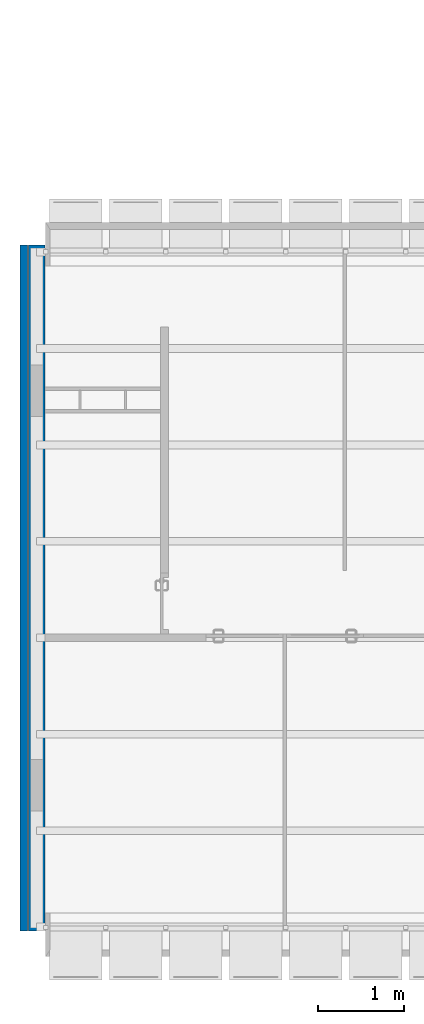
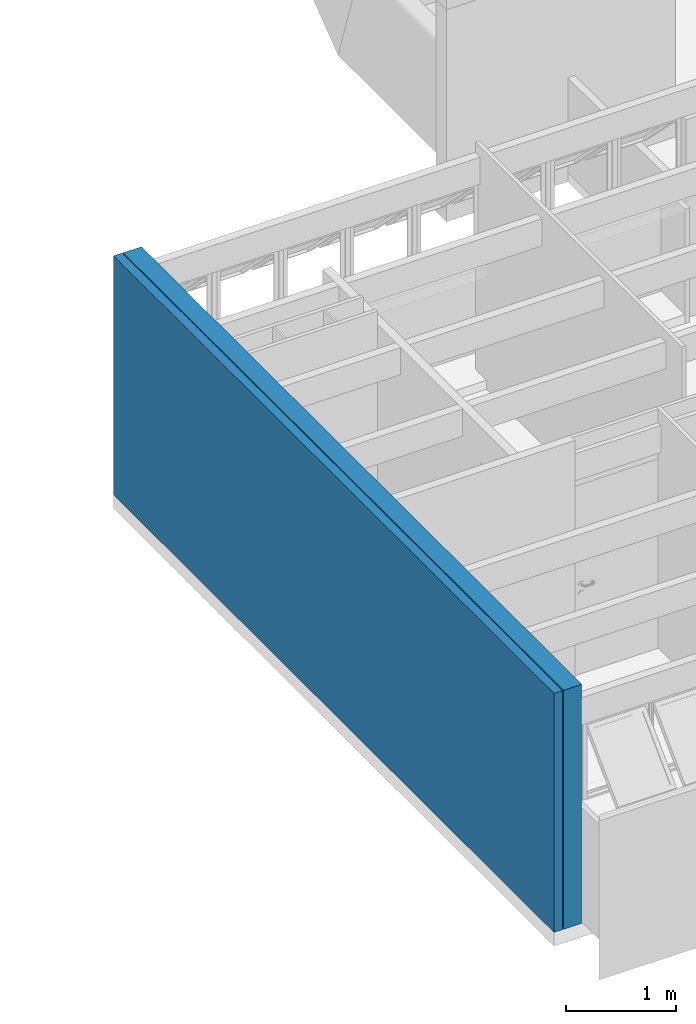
# One storey, part 20 of 41: 2 walls.
"""IFC4 building model written with IfcOpenShell, lengths in millimetres."""

from ifc_helpers import new_model, entity, si_unit, converted_unit, derived_unit, direction, frame, origin_with_axes, place, context, subcontext, project, spatial, line, indexed_curve, outline, extrude, material, layer, layer_set, layer_usage, type_object, element, save


model = new_model("IFC4")

# Units and contexts
model_context = context("Model", 3, precision=0.01, world=origin_with_axes(), true_north=direction((0.0, 1.0)))
body_context = subcontext(model_context, "Body", "Model", "MODEL_VIEW")
ifc_project = project(units=[si_unit("LENGTHUNIT", "METRE", prefix="MILLI"), si_unit("AREAUNIT", "SQUARE_METRE"), si_unit("VOLUMEUNIT", "CUBIC_METRE"), converted_unit("PLANEANGLEUNIT", "DEGREE", entity("IfcPlaneAngleMeasure", 0.0174532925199), si_unit("PLANEANGLEUNIT", "RADIAN"), dimensions=[0, 0, 0, 0, 0, 0, 0]), converted_unit("TIMEUNIT", "Year", entity("IfcTimeMeasure", 31556926.0), si_unit("TIMEUNIT", "SECOND"), dimensions=[0, 0, 1, 0, 0, 0, 0]), si_unit("MASSUNIT", "GRAM", prefix="KILO"), si_unit("THERMODYNAMICTEMPERATUREUNIT", "DEGREE_CELSIUS"), si_unit("LUMINOUSINTENSITYUNIT", "LUMEN"), si_unit("ENERGYUNIT", "JOULE", prefix="MEGA"), derived_unit("THERMALCONDUCTANCEUNIT", [(si_unit("POWERUNIT", "WATT"), 1), (si_unit("LENGTHUNIT", "METRE"), -1), (si_unit("THERMODYNAMICTEMPERATUREUNIT", "KELVIN"), -1)]), derived_unit("SPECIFICHEATCAPACITYUNIT", [(si_unit("ENERGYUNIT", "JOULE"), 1), (si_unit("MASSUNIT", "GRAM", prefix="KILO"), -1), (si_unit("THERMODYNAMICTEMPERATUREUNIT", "KELVIN"), -1)]), derived_unit("MASSDENSITYUNIT", [(si_unit("MASSUNIT", "GRAM", prefix="KILO"), 1), (si_unit("VOLUMEUNIT", "CUBIC_METRE"), -1)])], contexts=[model_context])

# Site, building, storey
site_placement = place(None, origin_with_axes())
site = spatial("IfcSite", under=ifc_project, at=site_placement, Name="Local", CompositionType="ELEMENT")
building_placement = place(site_placement, origin_with_axes())
building = spatial("IfcBuilding", under=site, at=building_placement, Name="Construção", CompositionType="ELEMENT")
storey_placement = place(building_placement, frame((0.0, 0.0, 2650.0), z_axis=(0.0, 0.0, 1.0), x_axis=(1.0, 0.0, 0.0)))
storey = spatial("IfcBuildingStorey", under=building, at=storey_placement, Name="Segundo Pavimento", CompositionType="ELEMENT", Elevation=2650.0)

# Walls
ifc_material = material(Name="GENÉRICO - VEDAÇÃO EXTERNA")
ifc_layer_1 = layer(ifc_material, 190.0, ventilated="UNKNOWN", Name="GENÉRICO - VEDAÇÃO EXTERNA")
ifc_layer_set_1 = layer_set([ifc_layer_1], Name="GENÉRICO - VEDAÇÃO EXTERNA 190")
ifc_layer_usage_1 = layer_usage(ifc_layer_set_1, "AXIS2", "NEGATIVE", 0.0)
wall_type_1 = type_object("IfcWallType", Name="GENÉRICO - VEDAÇÃO EXTERNA 190", PredefinedType="NOTDEFINED")
wall_1_placement = place(storey_placement, frame((290.0, 8300.0, 0.0), z_axis=(0.0, 0.0, 1.0), x_axis=(0.0, -1.0, 0.0)))
element("IfcWall", 1, at=wall_1_placement, inside=storey, type_object=wall_type_1, material=ifc_layer_usage_1, Name="APTO5-PAREDE-013", PredefinedType="NOTDEFINED", context=body_context, shape_type="SweptSolid", body=[
    extrude(outline(indexed_curve([(0.0, -190.0), (8000.0, -190.0), (8000.0, 0.0), (0.0, 0.0)], segments=[line(1, 2, 3, 4, 1)])), origin_with_axes(), (0.0, 0.0, 1.0), 2650.0),
])
ifc_layer_2 = layer(ifc_material, 90.0, ventilated="UNKNOWN", Name="GENÉRICO - VEDAÇÃO EXTERNA")
ifc_layer_set_2 = layer_set([ifc_layer_2], Name="GENÉRICO - VEDAÇÃO EXTERNA 90")
ifc_layer_usage_2 = layer_usage(ifc_layer_set_2, "AXIS2", "NEGATIVE", 0.0)
wall_type_2 = type_object("IfcWallType", Name="GENÉRICO - VEDAÇÃO EXTERNA 90", PredefinedType="NOTDEFINED")
wall_2_placement = place(storey_placement, frame((90.0, 8300.0, 0.0), z_axis=(0.0, 0.0, 1.0), x_axis=(0.0, -1.0, 0.0)))
element("IfcWall", 2, at=wall_2_placement, inside=storey, type_object=wall_type_2, material=ifc_layer_usage_2, Name="APTO5-PAREDE-014", PredefinedType="NOTDEFINED", context=body_context, shape_type="SweptSolid", body=[
    extrude(outline(indexed_curve([(0.0, -90.0), (8000.0, -90.0), (8000.0, 0.0), (0.0, 0.0)], segments=[line(1, 2, 3, 4, 1)])), origin_with_axes(), (0.0, 0.0, 1.0), 2650.0),
])

save(model, "model.ifc")
